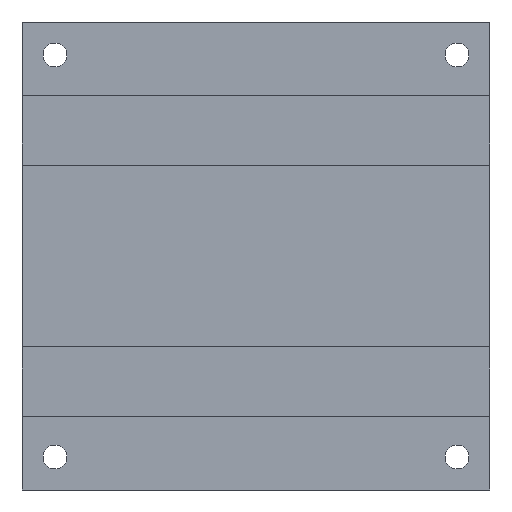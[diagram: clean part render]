
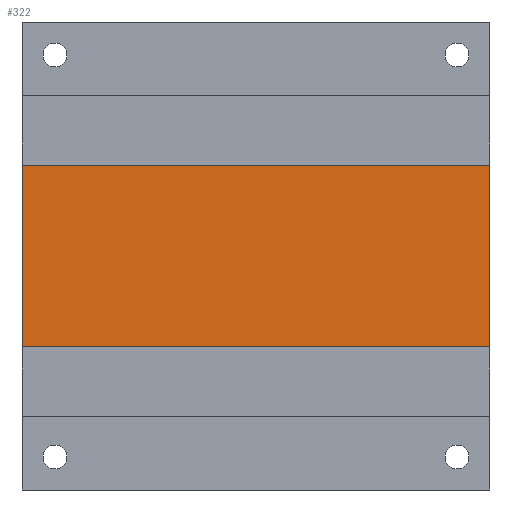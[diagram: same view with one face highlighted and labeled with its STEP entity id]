
A CAD part, front view. The second image highlights one B-rep face of the part: STEP entity #322.
In plain terms, the highlighted planar face has unit normal (0, -1, 0).
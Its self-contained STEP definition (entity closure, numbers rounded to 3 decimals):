
#54 = EDGE_CURVE ( 'NONE', #144, #1659, #851, .T. ) ;
#144 = VERTEX_POINT ( 'NONE', #1265 ) ;
#187 = ORIENTED_EDGE ( 'NONE', *, *, #1672, .F. ) ;
#199 = VERTEX_POINT ( 'NONE', #1471 ) ;
#263 = EDGE_LOOP ( 'NONE', ( #187, #890, #1400, #328 ) ) ;
#270 = EDGE_CURVE ( 'NONE', #1632, #199, #569, .T. ) ;
#322 = ADVANCED_FACE ( 'NONE', ( #764 ), #765, .T. ) ;
#328 = ORIENTED_EDGE ( 'NONE', *, *, #54, .T. ) ;
#569 = LINE ( 'NONE', #570, #571 ) ;
#570 = CARTESIAN_POINT ( 'NONE',  ( 20.6, 1.1, -8. ) ) ;
#571 = VECTOR ( 'NONE', #572, 1000. ) ;
#572 = DIRECTION ( 'NONE',  ( -1., 0., 0. ) ) ;
#742 = CARTESIAN_POINT ( 'NONE',  ( 20.6, 1.1, -8. ) ) ;
#764 = FACE_OUTER_BOUND ( 'NONE', #263, .T. ) ;
#765 = PLANE ( 'NONE',  #766 ) ;
#766 = AXIS2_PLACEMENT_3D ( 'NONE', #767, #768, #769 ) ;
#767 = CARTESIAN_POINT ( 'NONE',  ( 20.6, 1.1, 8. ) ) ;
#768 = DIRECTION ( 'NONE',  ( 0., -1., 0. ) ) ;
#769 = DIRECTION ( 'NONE',  ( 0., 0., -1. ) ) ;
#851 = LINE ( 'NONE', #852, #853 ) ;
#852 = CARTESIAN_POINT ( 'NONE',  ( 20.6, 1.1, 8. ) ) ;
#853 = VECTOR ( 'NONE', #854, 1000. ) ;
#854 = DIRECTION ( 'NONE',  ( -1., 0., 0. ) ) ;
#890 = ORIENTED_EDGE ( 'NONE', *, *, #270, .F. ) ;
#995 = CARTESIAN_POINT ( 'NONE',  ( -20.6, 1.1, 8. ) ) ;
#1059 = LINE ( 'NONE', #1060, #1061 ) ;
#1060 = CARTESIAN_POINT ( 'NONE',  ( -20.6, 1.1, 20.6 ) ) ;
#1061 = VECTOR ( 'NONE', #1062, 1000. ) ;
#1062 = DIRECTION ( 'NONE',  ( 0., 0., 1. ) ) ;
#1146 = EDGE_CURVE ( 'NONE', #1632, #144, #1267, .T. ) ;
#1265 = CARTESIAN_POINT ( 'NONE',  ( 20.6, 1.1, 8. ) ) ;
#1267 = LINE ( 'NONE', #1268, #1269 ) ;
#1268 = CARTESIAN_POINT ( 'NONE',  ( 20.6, 1.1, 8. ) ) ;
#1269 = VECTOR ( 'NONE', #1270, 1000. ) ;
#1270 = DIRECTION ( 'NONE',  ( 0., 0., 1. ) ) ;
#1400 = ORIENTED_EDGE ( 'NONE', *, *, #1146, .T. ) ;
#1471 = CARTESIAN_POINT ( 'NONE',  ( -20.6, 1.1, -8. ) ) ;
#1632 = VERTEX_POINT ( 'NONE', #742 ) ;
#1659 = VERTEX_POINT ( 'NONE', #995 ) ;
#1672 = EDGE_CURVE ( 'NONE', #199, #1659, #1059, .T. ) ;
